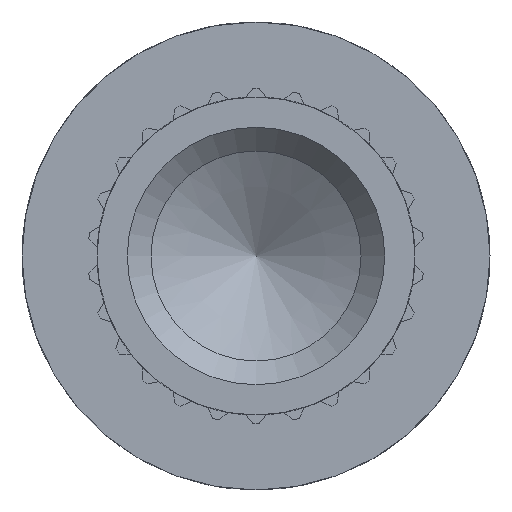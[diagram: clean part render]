
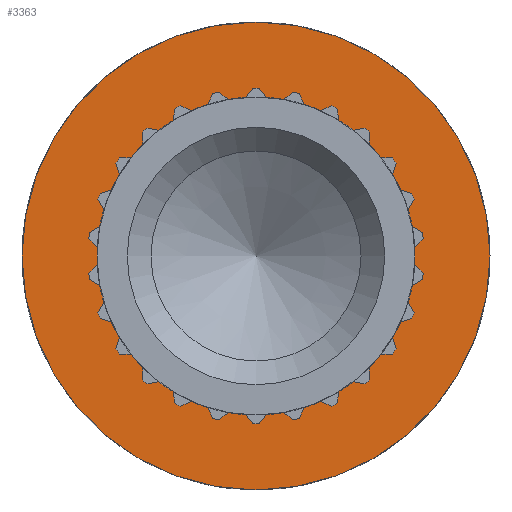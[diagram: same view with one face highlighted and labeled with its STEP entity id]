
A CAD part, left-side view. The second image highlights one B-rep face of the part: STEP entity #3363.
In plain terms, the highlighted planar face has unit normal (-1, 0, 0).
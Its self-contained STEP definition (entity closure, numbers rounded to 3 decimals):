
#17=FACE_BOUND($,#656,.T.);
#243=CIRCLE($,#3740,1.346);
#244=CIRCLE($,#3742,1.981);
#447=FACE_OUTER_BOUND($,#655,.T.);
#655=EDGE_LOOP($,(#2977));
#656=EDGE_LOOP($,(#2978));
#1550=VERTEX_POINT($,#5842);
#1551=VERTEX_POINT($,#5845);
#2031=EDGE_CURVE($,#1550,#1550,#243,.T.);
#2032=EDGE_CURVE($,#1551,#1551,#244,.T.);
#2977=ORIENTED_EDGE($,*,*,#2032,.F.);
#2978=ORIENTED_EDGE($,*,*,#2031,.T.);
#3163=PLANE($,#3741);
#3363=ADVANCED_FACE($,(#447,#17),#3163,.T.);
#3740=AXIS2_PLACEMENT_3D($,#5843,#4787,#4788);
#3741=AXIS2_PLACEMENT_3D($,#5844,#4789,#4790);
#3742=AXIS2_PLACEMENT_3D($,#5846,#4791,#4792);
#4787=DIRECTION('center_axis',(1.,0.,0.));
#4788=DIRECTION('ref_axis',(0.,1.,0.));
#4789=DIRECTION('center_axis',(-1.,0.,0.));
#4790=DIRECTION('ref_axis',(0.,0.,1.));
#4791=DIRECTION('center_axis',(1.,0.,0.));
#4792=DIRECTION('ref_axis',(0.,1.,0.));
#5842=CARTESIAN_POINT('',(2.769,1.346,0.));
#5843=CARTESIAN_POINT('Origin',(2.769,0.,0.));
#5844=CARTESIAN_POINT('Origin',(2.769,1.664,0.));
#5845=CARTESIAN_POINT('',(2.769,1.981,0.));
#5846=CARTESIAN_POINT('Origin',(2.769,0.,0.));
